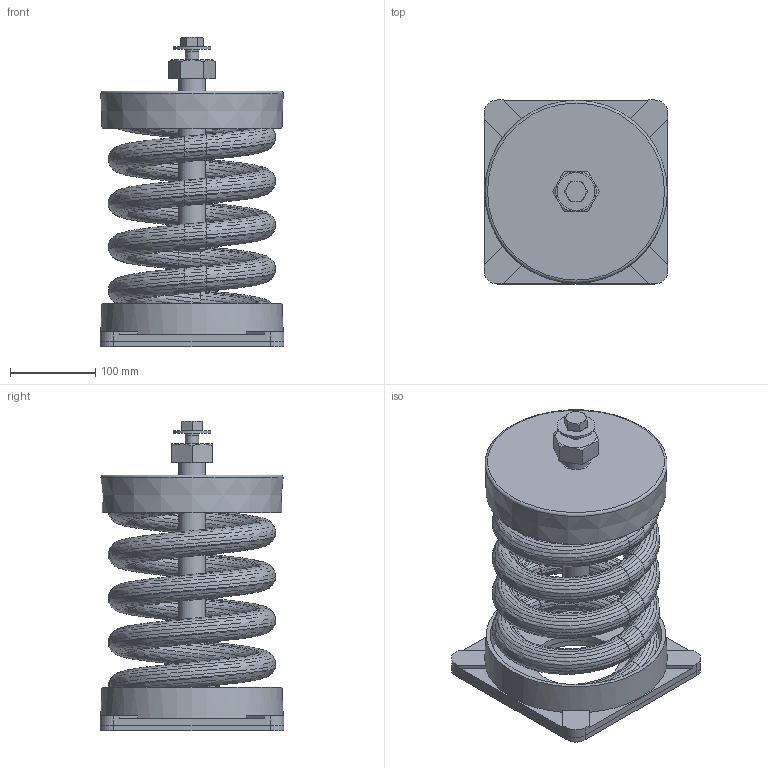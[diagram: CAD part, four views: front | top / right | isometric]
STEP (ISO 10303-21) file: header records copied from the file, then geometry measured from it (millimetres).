
FILE_DESCRIPTION(/* description */ (''),/* implementation_level */ '2;1');
FILE_NAME(/* name */ 'C:\001_Work\Designs\SLF ASSEMBLIES\SLF-138.stp',/* time_stamp */ '2016-01-11T10:26:52-05:00',/* author */ ('rramoutar'),/* organization */ ('Mason Industries Inc.'),/* preprocessor_version */ 'ST-DEVELOPER v15.6',/* originating_system */ 'Autodesk Inventor 2015',/* authorisation */ '');
FILE_SCHEMA (('CONFIG_CONTROL_DESIGN'));
Products named in the file (1): SLF-138
Bounding box: 215.9 x 215.9 x 363.07 mm (x, y, z)
Volume: 1605736.9 mm3; surface area: 893295.9 mm2
Topology: 7 solids, 7 shells, 689 faces, 1462 edges, 796 vertices
Faces by surface type: bspline 495, plane 137, cone 30, cylinder 25, torus 2
Full cylindrical faces by diameter (mm): 12.7 x4, 13.386 x1, 15.875 x1, 16.662 x1, 23.825 x1, 28.178 x1, 31.75 x1, 44.45 x1, 101.6 x2, 201.612 x2
Entity records: 37935 total; most frequent: CARTESIAN_POINT 26459, ORIENTED_EDGE 2866, EDGE_CURVE 1433, B_SPLINE_CURVE_WITH_KNOTS 1002, DIRECTION 860, VERTEX_POINT 790, EDGE_LOOP 731, STYLED_ITEM 696
